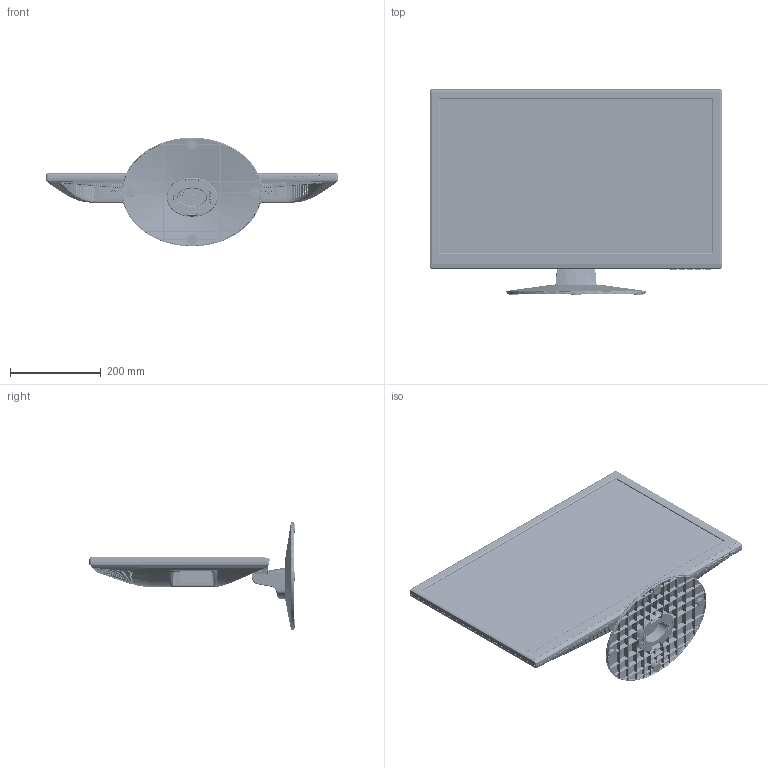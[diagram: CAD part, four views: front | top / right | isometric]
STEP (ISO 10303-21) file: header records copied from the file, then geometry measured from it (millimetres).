
FILE_DESCRIPTION (( 'STEP AP214' ), '1' );
FILE_NAME ('997-7912-00 RevB.STEP', '2016-01-09T01:52:50', ( 'IT Admin' ), ( 'Planar Systems, iNC.' ), 'SwSTEP 2.0', 'SolidWorks 2015', '' );
FILE_SCHEMA (( 'AUTOMOTIVE_DESIGN' ));
Length unit declared in the file: millimetre
Products named in the file (42): MANIFOLD_SOLID_BREP_381900; MANIFOLD_SOLID_BREP_1480; MANIFOLD_SOLID_BREP_381812; MANIFOLD_SOLID_BREP_1479; MANIFOLD_SOLID_BREP_381724; MANIFOLD_SOLID_BREP_1478; D-SUB-VGA-PORT_3; MANIFOLD_SOLID_BREP_1477; AC_SOCKET_ASM; MANIFOLD_SOLID_BREP_1476; MANIFOLD_SOLID_BREP_615828; MANIFOLD_SOLID_BREP_1475; MANIFOLD_SOLID_BREP_615182; MANIFOLD_SOLID_BREP_1474; MANIFOLD_SOLID_BREP_614536; PXL2780MW_Back_Cover; MANIFOLD_SOLID_BREP_613820; QHD-SHIELD-COVER; 2089860078P; METAL-SDB3-130729; JT269_T_BASE; 2044294600P-1106; QHD-METAL-NECK-RY; PXL2780MW_ Rubber_Foot; 27-QHD-LED-LENS; L27-NECK-0618; PXL2780MW_Display; 27-QHD-FRONT-BEZEL; JIQU651EW58J_ASM; L22BD-MB-140X70-DP-H-V-AUDIO_AS_ASM; MANIFOLD_SOLID_BREP_1486; DVI_NTK_001_1; 997-7912-00 RevB; MANIFOLD_SOLID_BREP_1485; Circuit_Board; MANIFOLD_SOLID_BREP_1484; DISPLAY_PORT_1352M20-350071T_3; MANIFOLD_SOLID_BREP_1483; HDMI-2407640519P-219_3_ASM_ASM; MANIFOLD_SOLID_BREP_1482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
Assembly tree (44 placements, depth 4):
  997-7912-00 RevB
    27-QHD-FRONT-BEZEL
    27-QHD-LED-LENS
    2044294600P-1106
    METAL-SDB3-130729
    QHD-SHIELD-COVER
    PXL2780MW_Back_Cover
    JIQU651EW58J_ASM
      MANIFOLD_SOLID_BREP_1474
      MANIFOLD_SOLID_BREP_1475
      MANIFOLD_SOLID_BREP_1476
      MANIFOLD_SOLID_BREP_1477
      MANIFOLD_SOLID_BREP_1478
      MANIFOLD_SOLID_BREP_1479
      MANIFOLD_SOLID_BREP_1480
      MANIFOLD_SOLID_BREP_1481
      MANIFOLD_SOLID_BREP_1482
      MANIFOLD_SOLID_BREP_1483
      MANIFOLD_SOLID_BREP_1484
      MANIFOLD_SOLID_BREP_1485
      MANIFOLD_SOLID_BREP_1486
    L27-NECK-0618
    QHD-METAL-NECK-RY
    JT269_T_BASE
    2089860078P
    AC_SOCKET_ASM
      MANIFOLD_SOLID_BREP_613820
      MANIFOLD_SOLID_BREP_614536
      MANIFOLD_SOLID_BREP_615182
      MANIFOLD_SOLID_BREP_615828
    L22BD-MB-140X70-DP-H-V-AUDIO_AS_ASM
      D-SUB-VGA-PORT_3
      HDMI-2407640519P-219_3_ASM_ASM
        MANIFOLD_SOLID_BREP_381724
        MANIFOLD_SOLID_BREP_381812
        MANIFOLD_SOLID_BREP_381900
        MANIFOLD_SOLID_BREP_397627
      DISPLAY_PORT_1352M20-350071T_3
      Circuit_Board
      DVI_NTK_001_1
    PXL2780MW_Display
    PXL2780MW_ Rubber_Foot  x4
Bounding box: 643.85 x 452.62 x 239.41 mm (x, y, z)
Volume: 488153.2 mm3; surface area: 2514214.7 mm2
Topology: 36 solids, 96 shells, 13134 faces, 46951 edges, 32115 vertices
Faces by surface type: plane 6437, cylinder 3970, bspline 2551, cone 151, torus 21, sphere 4
Entity records: 781142 total; most frequent: CARTESIAN_POINT 419601, ORIENTED_EDGE 89199, EDGE_CURVE 46769, DIRECTION 43936, VERTEX_POINT 32103, B_SPLINE_CURVE_WITH_KNOTS 27612, EDGE_LOOP 15143, LINE 14848
